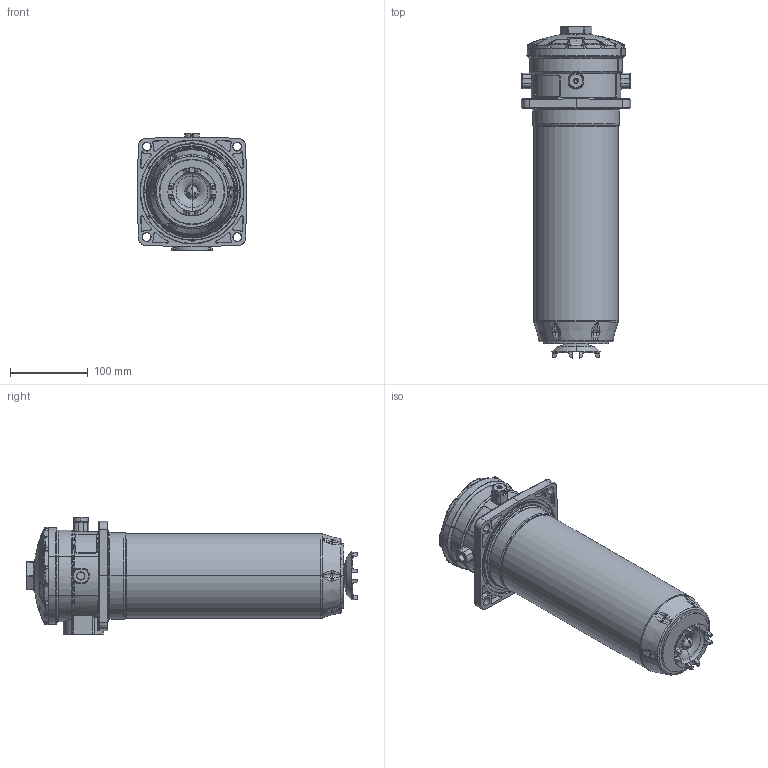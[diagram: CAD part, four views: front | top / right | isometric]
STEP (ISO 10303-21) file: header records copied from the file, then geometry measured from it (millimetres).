
FILE_DESCRIPTION((''),'2;1');
FILE_NAME('1000522565','2024-09-09T14:29:06',('g.topp'),(''),'CREO PARAMETRIC BY PTC INC, 2023254','CREO PARAMETRIC BY PTC INC, 2023254','');
FILE_SCHEMA(('AUTOMOTIVE_DESIGN { 1 0 10303 214 1 1 1 1 }'));
Length unit declared in the file: millimetre
Products named in the file (1): 1000522565
Bounding box: 141.5 x 428.1 x 151.75 mm (x, y, z)
Volume: 3911139.8 mm3; surface area: 238667.5 mm2
Topology: 1 solids, 16 shells, 1728 faces, 4403 edges, 2702 vertices
Faces by surface type: bspline 485, plane 481, cylinder 270, cone 202, torus 171, sphere 88, extrusion 31
Entity records: 90368 total; most frequent: CARTESIAN_POINT 39020, ORIENTED_EDGE 8710, DIRECTION 7132, PRESENTATION_STYLE_ASSIGNMENT 4361, STYLED_ITEM 4356, CURVE_STYLE 4355, EDGE_CURVE 4355, AXIS2_PLACEMENT_3D 3038
